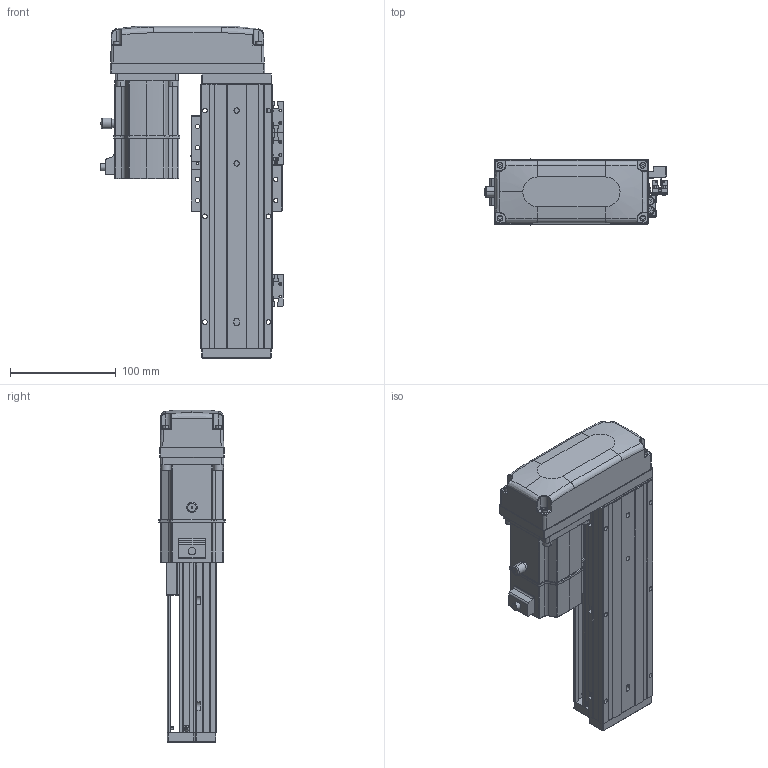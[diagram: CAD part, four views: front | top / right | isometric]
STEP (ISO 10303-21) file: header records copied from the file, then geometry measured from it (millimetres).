
FILE_DESCRIPTION (( 'STEP AP203' ), '1' );
FILE_NAME ('KTHAL60-100-BR-M20-C4L.step', '2022-12-16T02:14:19', ( '微软用户' ), ( '微软中国' ), 'SwSTEP 2.0', 'SolidWorks 2020', '' );
FILE_SCHEMA (( 'CONFIG_CONTROL_DESIGN' ));
Length unit declared in the file: millimetre
Products named in the file (17): KTHA60-001_250; CTHA60-017; CTHA60-015-4_CTHA60-015-4; KTHLA60-002; CTHA60-021; GTH80-026; KTHA60-004; GBT 70.1-M4×16; KTHAL60-100-BR-M20-C4L; KTHA60-005; GBT77-2000M3-3; GB¨uT 70.2-M3¡Á5_M3¡Á6; GBT 70.1-M3℅6; GBT 70.3-M3℅6; CTHA60-016; EE_SX911P_R; _X2_4E0983F1_X0_200W_1
Assembly tree (45 placements, depth 2):
  KTHAL60-100-BR-M20-C4L
    KTHA60-001_250
    KTHLA60-002
    KTHA60-004
    KTHA60-005
    GB¨uT 70.2-M3¡Á5_M3¡Á6  x5
    GBT 70.3-M3℅6  x4
    EE_SX911P_R  x3
    CTHA60-017  x3
    CTHA60-021  x2
    GBT 70.1-M4×16  x8
    GBT77-2000M3-3  x6
    GBT 70.1-M3℅6  x6
    CTHA60-016
    _X2_4E0983F1_X0_200W_1
    CTHA60-015-4_CTHA60-015-4
    GTH80-026
Bounding box: 173.02 x 62.42 x 314 mm (x, y, z)
Volume: 1268392.6 mm3; surface area: 248328.5 mm2
Topology: 48 solids, 48 shells, 2271 faces, 5380 edges, 3301 vertices
Faces by surface type: plane 1211, cylinder 599, cone 262, bspline 103, torus 82, sphere 14
Entity records: 43309 total; most frequent: CARTESIAN_POINT 9818, DIRECTION 6481, ORIENTED_EDGE 6384, EDGE_CURVE 3192, AXIS2_PLACEMENT_3D 2248, VERTEX_POINT 1985, LINE 1985, VECTOR 1985
